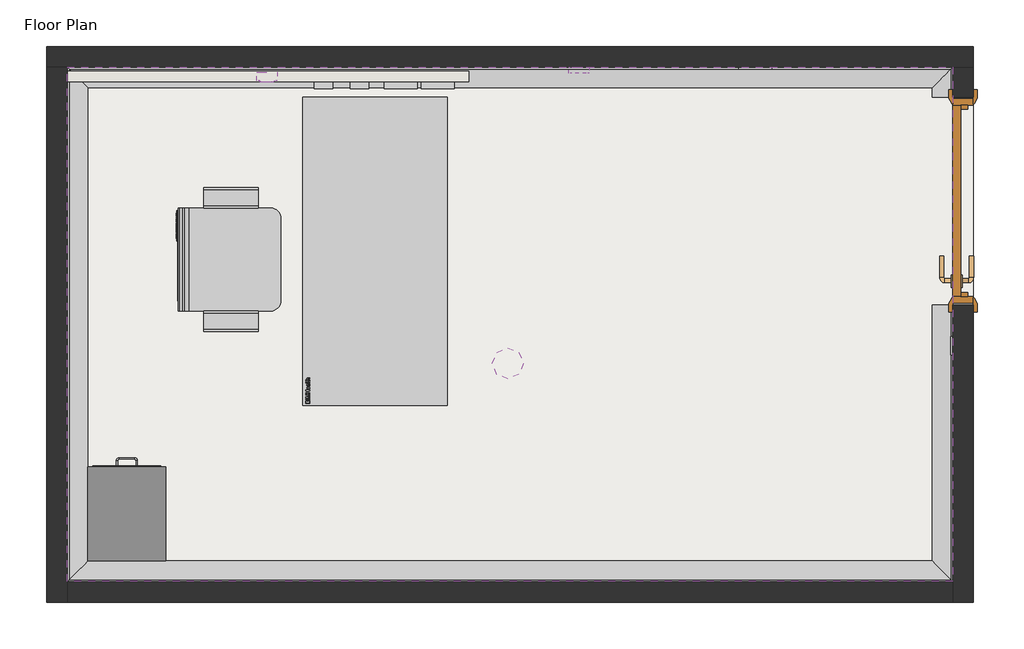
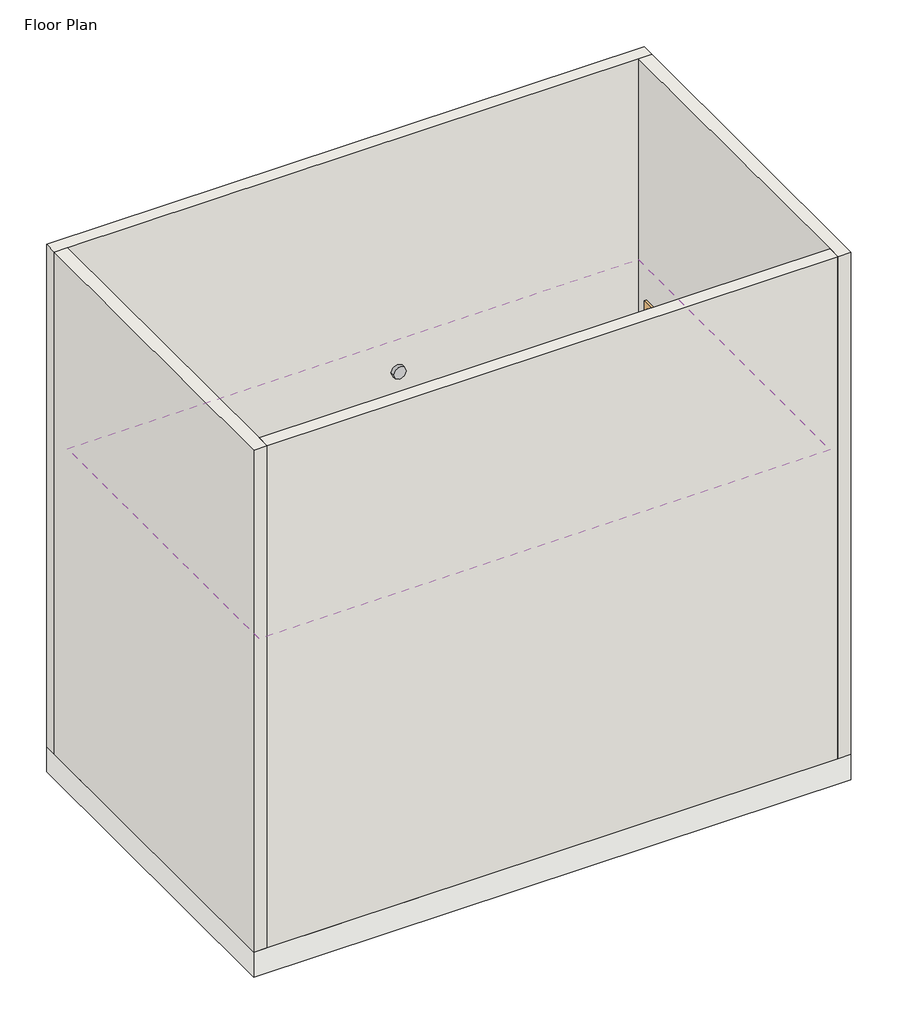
# One storey: 13 proxies, 5 walls, 3 furniture elements, 1 covering, 1 door, 1 slab.
"""IFC4 building model written with IfcOpenShell, lengths in millimetres."""

from ifc_helpers import new_model, si_unit, frame, origin, origin_with_axes, place, context, project, spatial, polyline, circle_curve, ellipse_curve, outline, extrude, faceted_brep, transform, mapped, element, save
from ifc_brep_helpers import plane_surface, revolved_surface, advanced_brep
from components import bimhealth_electrical_data_point_v1_type_1_559430e2, bimhealth_electrical_double_socket_v1_type_1_a33e6646, bimhealth_electrical_double_socket_v1_type_1_f9b83866, bimhealth_electrical_light_switch_v1_type_1_b5e59f8a, bimhealth_electrical_panic_alarm_v1_type_1_f5d69f13, bimhealth_electrical_smoke_detector_v1_bimhealth_electrical_fe9fcb6c, type_1_6de7a62d, door_1010x2110mm_f9eb5fde, furniture_fb8e9059, furniture_9261fd45, furniture_380x457x1320mm_2699b43c

model = new_model("IFC4")

# Units and contexts
model_context = context("Model", 3, world=origin())
ifc_project = project(units=[si_unit("LENGTHUNIT", "METRE", prefix="MILLI")], contexts=[model_context])

# Site, building, storey
site = spatial("IfcSite", under=ifc_project)
building = spatial("IfcBuilding", under=site)
storey = spatial("IfcBuildingStorey", under=building, Name="Floor Plan", Elevation=0.0)

# Proxies
placement = place(None, origin())
element("IfcBuildingElementProxy", 1, Name="Wall Sweeps", at=placement, inside=storey, context=model_context, shape_type="AdvancedBrep", body=[
    advanced_brep(
    [(5.0, 695.0, 0.0), (105.0, 795.0, 0.0), (105.0, 795.0, 10.0), (15.0, 705.0, 100.0), (5.0, 695.0, 100.0), (5.0, 3195.0, 0.0), (5.0, 3195.0, 100.0), (15.0, 3185.0, 100.0), (105.0, 3095.0, 10.0), (105.0, 3095.0, 0.0)],
    [
        (0, 1),
        (1, 2),
        (2, 3, ellipse_curve(frame((105.0, 795.0, 100.0), z_axis=(-0.707106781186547, 0.707106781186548, 0.0), x_axis=(0.707106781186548, 0.7071067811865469, 0.0)), 127.2792206, 90.0)),
        (3, 4),
        (4, 0),
        (5, 6),
        (6, 7),
        (7, 8, ellipse_curve(frame((105.0, 3095.0, 100.0), z_axis=(-0.7071067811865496, -0.7071067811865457, 0.0), x_axis=(-0.7071067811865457, 0.7071067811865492, 0.0)), 127.2792206, 90.0)),
        (8, 9),
        (9, 5),
        (4, 6),
        (5, 0),
        (3, 7),
        (2, 8),
        (1, 9),
    ],
    [
        plane_surface(frame((5.0, 695.0, 304.8), z_axis=(0.707106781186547, -0.707106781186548, 0.0), x_axis=(0.707106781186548, 0.707106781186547, 0.0))),
        plane_surface(frame((5.0, 3195.0, 304.8), z_axis=(0.7071067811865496, 0.7071067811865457, 0.0), x_axis=(0.7071067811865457, -0.7071067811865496, 0.0))),
        plane_surface(frame((5.0, 695.0, 100.0), z_axis=(-1.0, 0.0, 0.0), x_axis=(0.0, 1.0, 0.0))),
        plane_surface(frame((15.0, 705.0, 100.0), z_axis=(0.0, 0.0, 1.0), x_axis=(0.0, 1.0, 0.0))),
        revolved_surface(polyline([(195.0, 3185.0, 100.0), (195.0, 705.0, 100.0)]), (105.0, 695.0, 100.0), (0.0, 1.0, 0.0)),
        plane_surface(frame((105.0, 795.0, 0.0), z_axis=(1.0, 0.0, 0.0), x_axis=(0.0, 1.0, 0.0))),
        plane_surface(frame((5.0, 695.0, 0.0), z_axis=(0.0, 0.0, -1.0), x_axis=(0.0, 1.0, 0.0))),
    ],
    [
        (0, [[1, 2, 3, 4, 5]]),
        (1, [[6, 7, 8, 9, 10]]),
        (2, [[-5, 11, -6, 12]]),
        (3, [[-4, 13, -7, -11]]),
        (4, [[-3, 14, -8, -13]]),
        (5, [[-2, 15, -9, -14]]),
        (6, [[-1, -12, -10, -15]]),
    ],
),
])
element("IfcBuildingElementProxy", 2, Name="Wall Sweeps", at=placement, inside=storey, context=model_context, shape_type="AdvancedBrep", body=[
    advanced_brep(
    [(5.0, 3195.0, 0.0), (105.0, 3095.0, 0.0), (105.0, 3095.0, 10.0), (15.0, 3185.0, 100.0), (5.0, 3195.0, 100.0), (4305.0, 3195.0, 0.0), (4305.0, 3195.0, 100.0), (4295.0, 3185.0, 100.0), (4205.0, 3095.0, 10.0), (4205.0, 3095.0, 0.0)],
    [
        (0, 1),
        (1, 2),
        (2, 3, ellipse_curve(frame((105.0, 3095.0, 100.0), z_axis=(0.7071067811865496, 0.7071067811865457, 0.0), x_axis=(0.7071067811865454, -0.7071067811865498, 0.0)), 127.2792206, 90.0)),
        (3, 4),
        (4, 0),
        (5, 6),
        (6, 7),
        (7, 8, ellipse_curve(frame((4205.0, 3095.0, 100.0), z_axis=(-0.7071067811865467, 0.7071067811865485, 0.0), x_axis=(0.7071067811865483, 0.7071067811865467, 0.0)), 127.2792206, 90.0)),
        (8, 9),
        (9, 5),
        (4, 6),
        (5, 0),
        (3, 7),
        (2, 8),
        (1, 9),
    ],
    [
        plane_surface(frame((5.0, 3195.0, 304.8), z_axis=(-0.7071067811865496, -0.7071067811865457, 0.0), x_axis=(0.7071067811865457, -0.7071067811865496, 0.0))),
        plane_surface(frame((4305.0, 3195.0, 304.8), z_axis=(0.7071067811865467, -0.7071067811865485, 0.0), x_axis=(-0.7071067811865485, -0.7071067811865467, 0.0))),
        plane_surface(frame((5.0, 3195.0, 100.0), z_axis=(0.0, 1.0, 0.0), x_axis=(1.0, 0.0, 0.0))),
        plane_surface(frame((15.0, 3185.0, 100.0), z_axis=(0.0, 0.0, 1.0), x_axis=(1.0, 0.0, 0.0))),
        revolved_surface(polyline([(4295.0, 3005.0, 100.0), (15.0, 3005.0, 100.0)]), (5.0, 3095.0, 100.0), (1.0, 0.0, 0.0)),
        plane_surface(frame((105.0, 3095.0, 0.0), z_axis=(0.0, -1.0, 0.0), x_axis=(1.0, 0.0, 0.0))),
        plane_surface(frame((5.0, 3195.0, 0.0), z_axis=(0.0, 0.0, -1.0), x_axis=(1.0, 0.0, 0.0))),
    ],
    [
        (0, [[1, 2, 3, 4, 5]]),
        (1, [[6, 7, 8, 9, 10]]),
        (2, [[-5, 11, -6, 12]]),
        (3, [[-4, 13, -7, -11]]),
        (4, [[-3, 14, -8, -13]]),
        (5, [[-2, 15, -9, -14]]),
        (6, [[-1, -12, -10, -15]]),
    ],
),
])
element("IfcBuildingElementProxy", 3, Name="Wall Sweeps", at=placement, inside=storey, context=model_context, shape_type="AdvancedBrep", body=[
    advanced_brep(
    [(4305.0, 2040.0, 0.0), (4205.0, 2040.0, 0.0), (4205.0, 2040.0, 10.0), (4295.0, 2040.0, 100.0), (4305.0, 2040.0, 100.0), (4305.0, 695.0, 0.0), (4305.0, 695.0, 100.0), (4295.0, 705.0, 100.0), (4205.0, 795.0, 10.0), (4205.0, 795.0, 0.0)],
    [
        (0, 1),
        (1, 2),
        (2, 3, circle_curve(frame((4205.0, 2040.0, 100.0), z_axis=(0.0, -1.0, 0.0), x_axis=(-1.0, 0.0, 0.0)), 90.0)),
        (3, 4),
        (4, 0),
        (5, 6),
        (6, 7),
        (7, 8, ellipse_curve(frame((4205.0, 795.0, 100.0), z_axis=(0.7071067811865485, 0.7071067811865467, 0.0), x_axis=(0.7071067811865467, -0.7071067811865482, 0.0)), 127.2792206, 90.0)),
        (8, 9),
        (9, 5),
        (4, 6),
        (5, 0),
        (3, 7),
        (2, 8),
        (1, 9),
    ],
    [
        plane_surface(frame((4204.5012438, 2040.0, 0.0), z_axis=(0.0, 1.0, 0.0), x_axis=(0.0, 0.0, -1.0))),
        plane_surface(frame((4305.0, 695.0, 304.8), z_axis=(-0.7071067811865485, -0.7071067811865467, 0.0), x_axis=(-0.7071067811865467, 0.7071067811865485, 0.0))),
        plane_surface(frame((4305.0, 2040.0, 100.0), z_axis=(1.0, 0.0, 0.0), x_axis=(0.0, -1.0, 0.0))),
        plane_surface(frame((4295.0, 2040.0, 100.0), z_axis=(0.0, 0.0, 1.0), x_axis=(0.0, -1.0, 0.0))),
        revolved_surface(polyline([(4115.0, 705.0, 100.0), (4115.0, 2040.0, 100.0)]), (4205.0, 2040.0, 100.0), (0.0, -1.0, 0.0)),
        plane_surface(frame((4205.0, 2040.0, 0.0), z_axis=(-1.0, 0.0, 0.0), x_axis=(0.0, -1.0, 0.0))),
        plane_surface(frame((4305.0, 2040.0, 0.0), z_axis=(0.0, 0.0, -1.0), x_axis=(0.0, -1.0, 0.0))),
    ],
    [
        (0, [[1, 2, 3, 4, 5]]),
        (1, [[6, 7, 8, 9, 10]]),
        (2, [[-5, 11, -6, 12]]),
        (3, [[-4, 13, -7, -11]]),
        (4, [[-3, 14, -8, -13]]),
        (5, [[-2, 15, -9, -14]]),
        (6, [[-1, -12, -10, -15]]),
    ],
),
    advanced_brep(
    [(4305.0, 3195.0, 0.0), (4205.0, 3095.0, 0.0), (4205.0, 3095.0, 10.0), (4295.0, 3185.0, 100.0), (4305.0, 3195.0, 100.0), (4305.0, 3050.0, 0.0), (4305.0, 3050.0, 100.0), (4295.0, 3050.0, 100.0), (4205.0, 3050.0, 10.0), (4205.0, 3050.0, 0.0)],
    [
        (0, 1),
        (1, 2),
        (2, 3, ellipse_curve(frame((4205.0, 3095.0, 100.0), z_axis=(0.7071067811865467, -0.7071067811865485, 0.0), x_axis=(-0.7071067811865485, -0.7071067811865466, 0.0)), 127.2792206, 90.0)),
        (3, 4),
        (4, 0),
        (5, 6),
        (6, 7),
        (7, 8, circle_curve(frame((4205.0, 3050.0, 100.0), z_axis=(0.0, 1.0, 0.0), x_axis=(-1.0, 0.0, 0.0)), 90.0)),
        (8, 9),
        (9, 5),
        (4, 6),
        (5, 0),
        (3, 7),
        (2, 8),
        (1, 9),
    ],
    [
        plane_surface(frame((4305.0, 3195.0, 304.8), z_axis=(-0.7071067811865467, 0.7071067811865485, 0.0), x_axis=(-0.7071067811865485, -0.7071067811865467, 0.0))),
        plane_surface(frame((4204.5012438, 3050.0, 0.0), z_axis=(0.0, -1.0, 0.0), x_axis=(0.0, 0.0, -1.0))),
        plane_surface(frame((4305.0, 3195.0, 100.0), z_axis=(1.0, 0.0, 0.0), x_axis=(0.0, -1.0, 0.0))),
        plane_surface(frame((4295.0, 3185.0, 100.0), z_axis=(0.0, 0.0, 1.0), x_axis=(0.0, -1.0, 0.0))),
        revolved_surface(polyline([(4115.0, 3005.0000000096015, 100.0), (4115.0, 3185.0, 100.0)]), (4205.0, 3195.0, 100.0), (0.0, -1.0, 0.0)),
        plane_surface(frame((4205.0, 3095.0, 0.0), z_axis=(-1.0, 0.0, 0.0), x_axis=(0.0, -1.0, 0.0))),
        plane_surface(frame((4305.0, 3195.0, 0.0), z_axis=(0.0, 0.0, -1.0), x_axis=(0.0, -1.0, 0.0))),
    ],
    [
        (0, [[1, 2, 3, 4, 5]]),
        (1, [[6, 7, 8, 9, 10]]),
        (2, [[-5, 11, -6, 12]]),
        (3, [[-4, 13, -7, -11]]),
        (4, [[-3, 14, -8, -13]]),
        (5, [[-2, 15, -9, -14]]),
        (6, [[-1, -12, -10, -15]]),
    ],
),
])
element("IfcBuildingElementProxy", 4, Name="Wall Sweeps", at=placement, inside=storey, context=model_context, shape_type="AdvancedBrep", body=[
    advanced_brep(
    [(4305.0, 695.0, 0.0), (4205.0, 795.0, 0.0), (4205.0, 795.0, 10.0), (4295.0, 705.0, 100.0), (4305.0, 695.0, 100.0), (5.0, 695.0, 0.0), (5.0, 695.0, 100.0), (15.0, 705.0, 100.0), (105.0, 795.0, 10.0), (105.0, 795.0, 0.0)],
    [
        (0, 1),
        (1, 2),
        (2, 3, ellipse_curve(frame((4205.0, 795.0, 100.0), z_axis=(-0.7071067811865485, -0.7071067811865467, 0.0), x_axis=(-0.7071067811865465, 0.7071067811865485, 0.0)), 127.2792206, 90.0)),
        (3, 4),
        (4, 0),
        (5, 6),
        (6, 7),
        (7, 8, ellipse_curve(frame((105.0, 795.0, 100.0), z_axis=(0.707106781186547, -0.707106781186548, 0.0), x_axis=(-0.7071067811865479, -0.707106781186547, 0.0)), 127.2792206, 90.0)),
        (8, 9),
        (9, 5),
        (4, 6),
        (5, 0),
        (3, 7),
        (2, 8),
        (1, 9),
    ],
    [
        plane_surface(frame((4305.0, 695.0, 304.8), z_axis=(0.7071067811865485, 0.7071067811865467, 0.0), x_axis=(-0.7071067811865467, 0.7071067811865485, 0.0))),
        plane_surface(frame((5.0, 695.0, 304.8), z_axis=(-0.707106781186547, 0.707106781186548, 0.0), x_axis=(0.707106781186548, 0.707106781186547, 0.0))),
        plane_surface(frame((4305.0, 695.0, 100.0), z_axis=(0.0, -1.0, 0.0), x_axis=(-1.0, 0.0, 0.0))),
        plane_surface(frame((4295.0, 705.0, 100.0), z_axis=(0.0, 0.0, 1.0), x_axis=(-1.0, 0.0, 0.0))),
        revolved_surface(polyline([(15.0, 885.0, 100.0), (4295.0, 885.0, 100.0)]), (4305.0, 795.0, 100.0), (-1.0, 0.0, 0.0)),
        plane_surface(frame((4205.0, 795.0, 0.0), z_axis=(0.0, 1.0, 0.0), x_axis=(-1.0, 0.0, 0.0))),
        plane_surface(frame((4305.0, 695.0, 0.0), z_axis=(0.0, 0.0, -1.0), x_axis=(-1.0, 0.0, 0.0))),
    ],
    [
        (0, [[1, 2, 3, 4, 5]]),
        (1, [[6, 7, 8, 9, 10]]),
        (2, [[-5, 11, -6, 12]]),
        (3, [[-4, 13, -7, -11]]),
        (4, [[-3, 14, -8, -13]]),
        (5, [[-2, 15, -9, -14]]),
        (6, [[-1, -12, -10, -15]]),
    ],
),
])
bimhealth_electrical_data_point_v1_type_1_shape = bimhealth_electrical_data_point_v1_type_1_559430e2(model_context)
element("IfcBuildingElementProxy", 5, Name="BIMHealth-Electrical-Data_Point-v1 : Type 1", ObjectType="BIMHealth-Electrical-Data_Point-v1 : Type 1", at=placement, inside=storey, context=model_context, shape_type="MappedRepresentation", body=[
    mapped(bimhealth_electrical_data_point_v1_type_1_shape, transform((1420.0, 3150.0, -15.0), x_axis=(-1.0, 0.0, 0.0), y_axis=(0.0, -1.0, 0.0), z_axis=(0.0, 0.0, 1.0))),
])
bimhealth_electrical_double_socket_v1_type_1_shape = bimhealth_electrical_double_socket_v1_type_1_a33e6646(model_context)
element("IfcBuildingElementProxy", 6, Name="BIMHealth-Electrical-Double_Socket-v1 : Type 1", ObjectType="BIMHealth-Electrical-Double_Socket-v1 : Type 1", at=placement, inside=storey, context=model_context, shape_type="MappedRepresentation", body=[
    mapped(bimhealth_electrical_double_socket_v1_type_1_shape, transform((2010.0, 3150.0, 285.0), x_axis=(-1.0, 0.0, 0.0), y_axis=(0.0, -1.0, 0.0), z_axis=(0.0, 0.0, 1.0))),
])
element("IfcBuildingElementProxy", 7, Name="BIMHealth-Electrical-Double_Socket-v1 : Type 1", ObjectType="BIMHealth-Electrical-Double_Socket-v1 : Type 1", at=placement, inside=storey, context=model_context, shape_type="MappedRepresentation", body=[
    mapped(bimhealth_electrical_double_socket_v1_type_1_shape, transform((1830.0, 3150.0, 285.0), x_axis=(-1.0, 0.0, 0.0), y_axis=(0.0, -1.0, 0.0), z_axis=(0.0, 0.0, 1.0))),
])
bimhealth_electrical_double_socket_v1_type_1_2_shape = bimhealth_electrical_double_socket_v1_type_1_f9b83866(model_context)
element("IfcBuildingElementProxy", 8, Name="BIMHealth-Electrical-Double_Socket-v1 : Type 1", ObjectType="BIMHealth-Electrical-Double_Socket-v1 : Type 1", at=placement, inside=storey, context=model_context, shape_type="MappedRepresentation", body=[
    mapped(bimhealth_electrical_double_socket_v1_type_1_2_shape, transform((3550.0, 3245.0, 0.0), x_axis=(-1.0, 0.0, 0.0), y_axis=(0.0, -1.0, 0.0), z_axis=(0.0, 0.0, 1.0))),
])
bimhealth_electrical_light_switch_v1_type_1_shape = bimhealth_electrical_light_switch_v1_type_1_b5e59f8a(model_context)
element("IfcBuildingElementProxy", 9, Name="BIMHealth-Electrical-Light_Switch-v1 : Type 1", ObjectType="BIMHealth-Electrical-Light_Switch-v1 : Type 1", at=placement, inside=storey, context=model_context, shape_type="MappedRepresentation", body=[
    mapped(bimhealth_electrical_light_switch_v1_type_1_shape, transform((4355.0, 1670.0, -60.0), x_axis=(0.0, 1.0, 0.0), y_axis=(-1.0, 0.0, 0.0), z_axis=(0.0, 0.0, 1.0))),
])
bimhealth_electrical_panic_alarm_v1_type_1_shape = bimhealth_electrical_panic_alarm_v1_type_1_f5d69f13(model_context)
element("IfcBuildingElementProxy", 10, Name="BIMHealth-Electrical-Panic_Alarm-v1 : Type 1", ObjectType="BIMHealth-Electrical-Panic_Alarm-v1 : Type 1", at=placement, inside=storey, context=model_context, shape_type="MappedRepresentation", body=[
    mapped(bimhealth_electrical_panic_alarm_v1_type_1_shape, transform((1150.0, 3245.0, 0.0), x_axis=(-1.0, 0.0, 0.0), y_axis=(0.0, -1.0, 0.0), z_axis=(0.0, 0.0, 1.0))),
])
bimhealth_electrical_smoke_detector_v1_bimhealth_electrical_shape = bimhealth_electrical_smoke_detector_v1_bimhealth_electrical_fe9fcb6c(model_context)
element("IfcBuildingElementProxy", 11, Name="BIMHealth-Electrical-Smoke_Detector-v1 : BIMHealth-Electrical-Smoke_Detector-v1", ObjectType="BIMHealth-Electrical-Smoke_Detector-v1 : BIMHealth-Electrical-Smoke_Detector-v1", at=placement, inside=storey, context=model_context, shape_type="MappedRepresentation", body=[
    mapped(bimhealth_electrical_smoke_detector_v1_bimhealth_electrical_shape, transform((2145.0, 1755.0, -38.4), x_axis=(1.0, 0.0, 0.0), y_axis=(0.0, 1.0, 0.0), z_axis=(0.0, 0.0, 1.0))),
])
element("IfcBuildingElementProxy", 12, Name="BIMHealth-Electrical-Telephone_Point-v1 : Type 1", ObjectType="BIMHealth-Electrical-Telephone_Point-v1 : Type 1", at=placement, inside=storey, context=model_context, shape_type="MappedRepresentation", body=[
    mapped(bimhealth_electrical_data_point_v1_type_1_shape, transform((1595.0, 3150.0, -15.0), x_axis=(-1.0, 0.0, 0.0), y_axis=(0.0, -1.0, 0.0), z_axis=(0.0, 0.0, 1.0))),
])
type_1_shape = type_1_6de7a62d(model_context)
element("IfcBuildingElementProxy", 13, Name="BIMHealth-Electrical-Alarm_Sounder-v1 : Type 1", ObjectType="BIMHealth-Electrical-Alarm_Sounder-v1 : Type 1", at=placement, inside=storey, context=model_context, shape_type="MappedRepresentation", body=[
    mapped(type_1_shape, transform((2665.0, 3245.0, 0.0), x_axis=(-1.0, 0.0, 0.0), y_axis=(0.0, -1.0, 0.0), z_axis=(0.0, 0.0, 1.0))),
])

# Covering
element("IfcCovering", 14, ObjectType="BIMHealth - Generic Ceiling", at=placement, inside=storey, context=model_context, shape_type="SweptSolid", body=[
    extrude(outline(polyline([(4305.0, 3195.0), (4305.0, 695.0), (5.0, 695.0), (5.0, 3195.0), (4305.0, 3195.0)])), frame((0.0, 0.0, 2400.0), z_axis=(0.0, 0.0, 1.0), x_axis=(1.0, 0.0, 0.0)), (0.0, 0.0, 1.0), 52.0),
])

# Door
door_1010x2110mm_shape = door_1010x2110mm_f9eb5fde(model_context)
element("IfcDoor", 15, ObjectType="BIMHealth-Single_Door-LOD2A-v1 : 1010x2110mm", at=placement, inside=storey, context=model_context, shape_type="MappedRepresentation", body=[
    mapped(door_1010x2110mm_shape, transform((4355.0, 2545.0, 0.0), x_axis=(0.0, 1.0, 0.0), y_axis=(-1.0, 0.0, 0.0), z_axis=(0.0, 0.0, 1.0))),
])

# Furniture
furniture_shape = furniture_fb8e9059(model_context)
element("IfcFurniture", 16, ObjectType="BIMHealth-Chair_Consultant-LOD2A-v1 : BIMHealth-Chair_Consultant-LOD2A-v1", at=placement, inside=storey, context=model_context, shape_type="MappedRepresentation", body=[
    mapped(furniture_shape, transform((542.7673619, 2010.0, 0.0), x_axis=(0.0, 1.0, 0.0), y_axis=(-1.0, 0.0, 0.0), z_axis=(0.0, 0.0, 1.0))),
])
furniture_2_shape = furniture_9261fd45(model_context)
element("IfcFurniture", 17, ObjectType="BIMHealth-Desk_Consultant-LOD2A-v1 : BIMHealth-Desk_Consultant-LOD2A-v1", at=placement, inside=storey, context=model_context, shape_type="MappedRepresentation", body=[
    mapped(furniture_2_shape, transform((1150.0, 1550.0, 0.0), x_axis=(0.0, 1.0, 0.0), y_axis=(-1.0, 0.0, 0.0), z_axis=(0.0, 0.0, 1.0))),
])
furniture_380x457x1320mm_shape = furniture_380x457x1320mm_2699b43c(model_context)
element("IfcFurniture", 18, ObjectType="Furniture_Filing_Cabinetx4 : 380x457x1320mm", at=placement, inside=storey, context=model_context, shape_type="MappedRepresentation", body=[
    mapped(furniture_380x457x1320mm_shape, transform((167.103553, 881.3656999, 0.0), x_axis=(-1.0000000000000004, 0.0, 0.0), y_axis=(0.0, -1.0000000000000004, 0.0), z_axis=(0.0, 0.0, 1.0))),
])

# Slab
element("IfcSlab", 19, ObjectType="BIMHealth - Generic Floor", at=placement, inside=storey, context=model_context, shape_type="SweptSolid", body=[
    extrude(outline(polyline([(4405.0, 3295.0), (4405.0, 595.0), (-95.0, 595.0), (-95.0, 3295.0), (4405.0, 3295.0)])), frame((0.0, 0.0, -200.0), z_axis=(0.0, 0.0, 1.0), x_axis=(1.0, 0.0, 0.0)), (0.0, 0.0, 1.0), 200.0),
])

# Walls
element("IfcWall", 20, ObjectType="BIMHealth - Generic Wall - Trunking", at=placement, inside=storey, context=model_context, shape_type="SweptSolid", body=[
    extrude(outline(polyline([(1955.0, 3125.0), (5.0, 3125.0), (5.0, 3175.0), (1955.0, 3175.0), (1955.0, 3125.0)])), frame((0.0, 0.0, 700.0), z_axis=(0.0, 0.0, 1.0), x_axis=(1.0, 0.0, 0.0)), (0.0, 0.0, 1.0), 150.0),
])
element("IfcWall", 21, ObjectType="BIMHealth - Generic Wall", at=placement, inside=storey, context=model_context, shape_type="Brep", body=[
    faceted_brep([(5.0, 595.0, 0.0), (5.0, 695.0, 0.0), (5.0, 3195.0, 0.0), (5.0, 3195.0, 4000.0), (5.0, 695.0, 4000.0), (5.0, 595.0, 4000.0), (-95.0, 595.0, 0.0), (-95.0, 595.0, 4000.0), (-95.0, 3195.0, 4000.0), (-95.0, 3195.0, 0.0)], [[[0, 1, 2, 3, 4, 5]], [[6, 7, 8, 9]], [[2, 1, 0, 6, 9]], [[5, 4, 3, 8, 7]], [[0, 5, 7, 6]], [[3, 2, 9, 8]]]),
])
element("IfcWall", 22, ObjectType="BIMHealth - Generic Wall", at=placement, inside=storey, context=model_context, shape_type="Brep", body=[
    faceted_brep([(-95.0, 3195.0, 0.0), (5.0, 3195.0, 0.0), (4305.0, 3195.0, 0.0), (4405.0, 3195.0, 0.0), (4405.0, 3195.0, 4000.0), (4305.0, 3195.0, 4000.0), (5.0, 3195.0, 4000.0), (-95.0, 3195.0, 4000.0), (-95.0, 3295.0, 0.0), (-95.0, 3295.0, 4000.0), (4405.0, 3295.0, 4000.0), (4405.0, 3295.0, 0.0)], [[[0, 1, 2, 3, 4, 5, 6, 7]], [[8, 9, 10, 11]], [[3, 2, 1, 0, 8, 11]], [[7, 6, 5, 4, 10, 9]], [[4, 3, 11, 10]], [[0, 7, 9, 8]]]),
])
element("IfcWall", 23, ObjectType="BIMHealth - Generic Wall", at=placement, inside=storey, context=model_context, shape_type="Brep", body=[
    faceted_brep([(4305.0, 595.0, 4000.0), (4305.0, 695.0, 4000.0), (4305.0, 3195.0, 4000.0), (4305.0, 3195.0, 0.0), (4305.0, 3050.0, 0.0), (4305.0, 3050.0, 100.0), (4305.0, 3050.0, 2110.0), (4305.0, 2040.0, 2110.0), (4305.0, 2040.0, 100.0), (4305.0, 2040.0, 0.0), (4305.0, 695.0, 0.0), (4305.0, 595.0, 0.0), (4405.0, 3195.0, 4000.0), (4405.0, 595.0, 4000.0), (4405.0, 595.0, 0.0), (4405.0, 2040.0, 0.0), (4405.0, 2040.0, 2110.0), (4405.0, 3050.0, 2110.0), (4405.0, 3050.0, 0.0), (4405.0, 3195.0, 0.0)], [[[0, 1, 2, 3, 4, 5, 6, 7, 8, 9, 10, 11]], [[12, 13, 14, 15, 16, 17, 18, 19]], [[3, 19, 18, 4]], [[14, 11, 10, 9, 15]], [[2, 1, 0, 13, 12]], [[3, 2, 12, 19]], [[0, 11, 14, 13]], [[17, 6, 5, 4, 18]], [[6, 17, 16, 7]], [[7, 16, 15, 9, 8]]]),
])
element("IfcWall", 24, ObjectType="BIMHealth - Generic Wall", at=placement, inside=storey, context=model_context, shape_type="SweptSolid", body=[
    extrude(outline(polyline([(5.0, 695.0), (4305.0, 695.0), (4305.0, 595.0), (5.0, 595.0), (5.0, 695.0)])), origin_with_axes(), (0.0, 0.0, 1.0), 4000.0),
])

save(model, "model.ifc")
